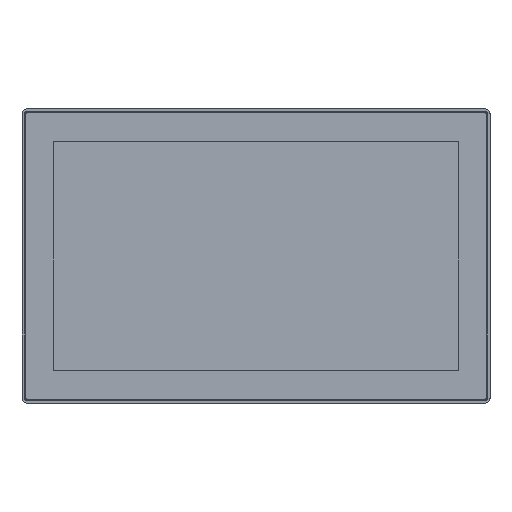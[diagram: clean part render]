
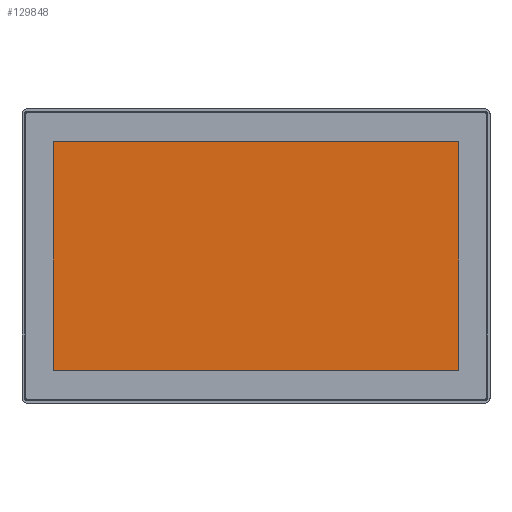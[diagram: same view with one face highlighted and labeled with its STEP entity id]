
A CAD part, top view. The second image highlights one B-rep face of the part: STEP entity #129848.
In plain terms, the highlighted planar face has unit normal (0, 0, 1).
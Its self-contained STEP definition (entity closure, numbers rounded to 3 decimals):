
#8468 = DIRECTION ( 'NONE',  ( 1., 0., 0. ) ) ;
#8806 = DIRECTION ( 'NONE',  ( -1., 0., 0. ) ) ;
#21486 = PLANE ( 'NONE',  #204581 ) ;
#24745 = CARTESIAN_POINT ( 'NONE',  ( -239., 134.75, 8.5 ) ) ;
#36302 = ORIENTED_EDGE ( 'NONE', *, *, #249949, .F. ) ;
#44328 = CARTESIAN_POINT ( 'NONE',  ( -272.7, -170.2, 8.5 ) ) ;
#50572 = VECTOR ( 'NONE', #8806, 1000. ) ;
#56178 = EDGE_LOOP ( 'NONE', ( #281212, #36302, #217198, #139471 ) ) ;
#65701 = CARTESIAN_POINT ( 'NONE',  ( 239., 134.75, 8.5 ) ) ;
#67152 = DIRECTION ( 'NONE',  ( 0., 0., 1. ) ) ;
#67988 = VERTEX_POINT ( 'NONE', #65701 ) ;
#98198 = LINE ( 'NONE', #241213, #272743 ) ;
#103668 = DIRECTION ( 'NONE',  ( 0., -1., 0. ) ) ;
#109718 = VERTEX_POINT ( 'NONE', #222807 ) ;
#117764 = FACE_OUTER_BOUND ( 'NONE', #56178, .T. ) ;
#124462 = EDGE_CURVE ( 'NONE', #109718, #214651, #171616, .T. ) ;
#126521 = CARTESIAN_POINT ( 'NONE',  ( 239., 134.75, 8.5 ) ) ;
#129848 = ADVANCED_FACE ( 'NONE', ( #117764 ), #21486, .T. ) ;
#139471 = ORIENTED_EDGE ( 'NONE', *, *, #284918, .F. ) ;
#143868 = CARTESIAN_POINT ( 'NONE',  ( 239., 134.75, 8.5 ) ) ;
#145152 = CARTESIAN_POINT ( 'NONE',  ( 239., -134.75, 8.5 ) ) ;
#163070 = EDGE_CURVE ( 'NONE', #254482, #67988, #266426, .T. ) ;
#171616 = LINE ( 'NONE', #145152, #50572 ) ;
#185322 = CARTESIAN_POINT ( 'NONE',  ( -239., -134.75, 8.5 ) ) ;
#204581 = AXIS2_PLACEMENT_3D ( 'NONE', #44328, #67152, #226400 ) ;
#205872 = VECTOR ( 'NONE', #8468, 1000. ) ;
#214651 = VERTEX_POINT ( 'NONE', #185322 ) ;
#217198 = ORIENTED_EDGE ( 'NONE', *, *, #163070, .F. ) ;
#222807 = CARTESIAN_POINT ( 'NONE',  ( 239., -134.75, 8.5 ) ) ;
#226400 = DIRECTION ( 'NONE',  ( 1., 0., 0. ) ) ;
#240385 = LINE ( 'NONE', #126521, #279595 ) ;
#241213 = CARTESIAN_POINT ( 'NONE',  ( -239., 134.75, 8.5 ) ) ;
#249949 = EDGE_CURVE ( 'NONE', #67988, #109718, #240385, .T. ) ;
#254482 = VERTEX_POINT ( 'NONE', #24745 ) ;
#264116 = DIRECTION ( 'NONE',  ( 0., 1., 0. ) ) ;
#266426 = LINE ( 'NONE', #143868, #205872 ) ;
#272743 = VECTOR ( 'NONE', #264116, 1000. ) ;
#279595 = VECTOR ( 'NONE', #103668, 1000. ) ;
#281212 = ORIENTED_EDGE ( 'NONE', *, *, #124462, .F. ) ;
#284918 = EDGE_CURVE ( 'NONE', #214651, #254482, #98198, .T. ) ;
